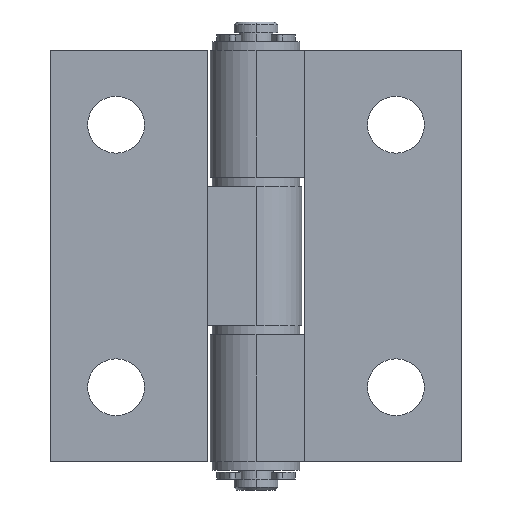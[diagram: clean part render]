
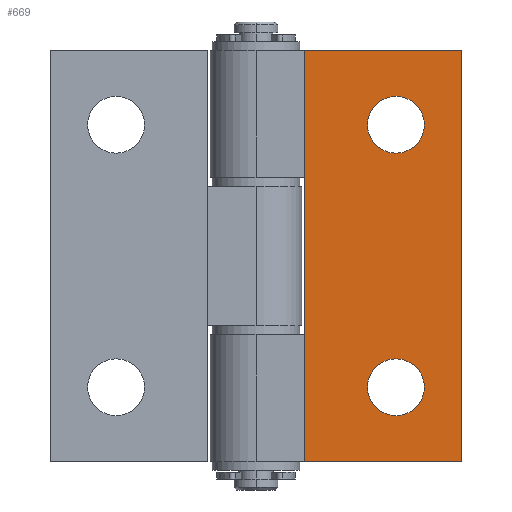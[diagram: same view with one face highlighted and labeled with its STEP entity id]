
A CAD part, front view. The second image highlights one B-rep face of the part: STEP entity #669.
In plain terms, the highlighted planar face has unit normal (0, -1, 0).
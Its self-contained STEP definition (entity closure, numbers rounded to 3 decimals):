
#31 = DIRECTION ( 'NONE',  ( 0., 0., 1. ) ) ;
#35 = DIRECTION ( 'NONE',  ( 1., 0., 0. ) ) ;
#152 = LINE ( 'NONE', #1063, #3186 ) ;
#228 = DIRECTION ( 'NONE',  ( 1., 0., 0. ) ) ;
#258 = DIRECTION ( 'NONE',  ( 0., 1., 0. ) ) ;
#323 = EDGE_LOOP ( 'NONE', ( #3422, #1720 ) ) ;
#328 = VECTOR ( 'NONE', #1372, 1000. ) ;
#463 = VERTEX_POINT ( 'NONE', #3076 ) ;
#542 = CARTESIAN_POINT ( 'NONE',  ( 16., -5.75, 15. ) ) ;
#569 = EDGE_CURVE ( 'NONE', #3556, #838, #960, .T. ) ;
#669 = ADVANCED_FACE ( 'NONE', ( #764, #2243, #1471 ), #967, .F. ) ;
#760 = EDGE_LOOP ( 'NONE', ( #1159, #3368 ) ) ;
#764 = FACE_BOUND ( 'NONE', #760, .T. ) ;
#838 = VERTEX_POINT ( 'NONE', #1909 ) ;
#843 = DIRECTION ( 'NONE',  ( 0., 0., 1. ) ) ;
#853 = CARTESIAN_POINT ( 'NONE',  ( 16., -5.75, -15. ) ) ;
#898 = VERTEX_POINT ( 'NONE', #3749 ) ;
#960 = CIRCLE ( 'NONE', #2799, 3.25 ) ;
#967 = PLANE ( 'NONE',  #1157 ) ;
#976 = EDGE_CURVE ( 'NONE', #898, #463, #2225, .T. ) ;
#1022 = AXIS2_PLACEMENT_3D ( 'NONE', #3555, #1804, #31 ) ;
#1062 = CARTESIAN_POINT ( 'NONE',  ( 5.5, -5.75, 23.5 ) ) ;
#1063 = CARTESIAN_POINT ( 'NONE',  ( 23.5, -5.75, 23.5 ) ) ;
#1081 = EDGE_CURVE ( 'NONE', #838, #3556, #3408, .T. ) ;
#1145 = CARTESIAN_POINT ( 'NONE',  ( 5.5, -5.75, 23.5 ) ) ;
#1157 = AXIS2_PLACEMENT_3D ( 'NONE', #1062, #1318, #1333 ) ;
#1159 = ORIENTED_EDGE ( 'NONE', *, *, #569, .T. ) ;
#1170 = CARTESIAN_POINT ( 'NONE',  ( 16., -5.75, 18.25 ) ) ;
#1196 = CARTESIAN_POINT ( 'NONE',  ( 16., -5.75, 11.75 ) ) ;
#1318 = DIRECTION ( 'NONE',  ( 0., 1., 0. ) ) ;
#1333 = DIRECTION ( 'NONE',  ( 0., 0., 1. ) ) ;
#1347 = CARTESIAN_POINT ( 'NONE',  ( 5.5, -5.75, 23.5 ) ) ;
#1372 = DIRECTION ( 'NONE',  ( 0., 0., -1. ) ) ;
#1471 = FACE_OUTER_BOUND ( 'NONE', #2674, .T. ) ;
#1493 = AXIS2_PLACEMENT_3D ( 'NONE', #542, #2603, #843 ) ;
#1534 = ORIENTED_EDGE ( 'NONE', *, *, #2278, .T. ) ;
#1720 = ORIENTED_EDGE ( 'NONE', *, *, #2292, .T. ) ;
#1734 = DIRECTION ( 'NONE',  ( 0., 0., 1. ) ) ;
#1804 = DIRECTION ( 'NONE',  ( 0., 1., 0. ) ) ;
#1877 = CIRCLE ( 'NONE', #1493, 3.25 ) ;
#1909 = CARTESIAN_POINT ( 'NONE',  ( 16., -5.75, -18.25 ) ) ;
#1949 = DIRECTION ( 'NONE',  ( 0., 0., -1. ) ) ;
#1956 = ORIENTED_EDGE ( 'NONE', *, *, #976, .F. ) ;
#1998 = LINE ( 'NONE', #1347, #328 ) ;
#2009 = CARTESIAN_POINT ( 'NONE',  ( 16., -5.75, -11.75 ) ) ;
#2041 = LINE ( 'NONE', #2681, #3504 ) ;
#2144 = EDGE_CURVE ( 'NONE', #463, #2571, #152, .T. ) ;
#2225 = LINE ( 'NONE', #1145, #2306 ) ;
#2243 = FACE_BOUND ( 'NONE', #323, .T. ) ;
#2260 = AXIS2_PLACEMENT_3D ( 'NONE', #853, #258, #1734 ) ;
#2278 = EDGE_CURVE ( 'NONE', #2413, #2571, #2041, .T. ) ;
#2292 = EDGE_CURVE ( 'NONE', #3724, #3679, #3376, .T. ) ;
#2306 = VECTOR ( 'NONE', #228, 1000. ) ;
#2413 = VERTEX_POINT ( 'NONE', #3023 ) ;
#2571 = VERTEX_POINT ( 'NONE', #3371 ) ;
#2580 = EDGE_CURVE ( 'NONE', #898, #2413, #1998, .T. ) ;
#2603 = DIRECTION ( 'NONE',  ( 0., 1., 0. ) ) ;
#2674 = EDGE_LOOP ( 'NONE', ( #1534, #3317, #1956, #3515 ) ) ;
#2681 = CARTESIAN_POINT ( 'NONE',  ( 5.5, -5.75, -23.5 ) ) ;
#2799 = AXIS2_PLACEMENT_3D ( 'NONE', #3719, #3456, #3140 ) ;
#3023 = CARTESIAN_POINT ( 'NONE',  ( 5.5, -5.75, -23.5 ) ) ;
#3076 = CARTESIAN_POINT ( 'NONE',  ( 23.5, -5.75, 23.5 ) ) ;
#3140 = DIRECTION ( 'NONE',  ( 0., 0., 1. ) ) ;
#3186 = VECTOR ( 'NONE', #1949, 1000. ) ;
#3317 = ORIENTED_EDGE ( 'NONE', *, *, #2144, .F. ) ;
#3368 = ORIENTED_EDGE ( 'NONE', *, *, #1081, .T. ) ;
#3371 = CARTESIAN_POINT ( 'NONE',  ( 23.5, -5.75, -23.5 ) ) ;
#3376 = CIRCLE ( 'NONE', #1022, 3.25 ) ;
#3408 = CIRCLE ( 'NONE', #2260, 3.25 ) ;
#3422 = ORIENTED_EDGE ( 'NONE', *, *, #3590, .T. ) ;
#3456 = DIRECTION ( 'NONE',  ( 0., 1., 0. ) ) ;
#3504 = VECTOR ( 'NONE', #35, 1000. ) ;
#3515 = ORIENTED_EDGE ( 'NONE', *, *, #2580, .T. ) ;
#3555 = CARTESIAN_POINT ( 'NONE',  ( 16., -5.75, 15. ) ) ;
#3556 = VERTEX_POINT ( 'NONE', #2009 ) ;
#3590 = EDGE_CURVE ( 'NONE', #3679, #3724, #1877, .T. ) ;
#3679 = VERTEX_POINT ( 'NONE', #1170 ) ;
#3719 = CARTESIAN_POINT ( 'NONE',  ( 16., -5.75, -15. ) ) ;
#3724 = VERTEX_POINT ( 'NONE', #1196 ) ;
#3749 = CARTESIAN_POINT ( 'NONE',  ( 5.5, -5.75, 23.5 ) ) ;
